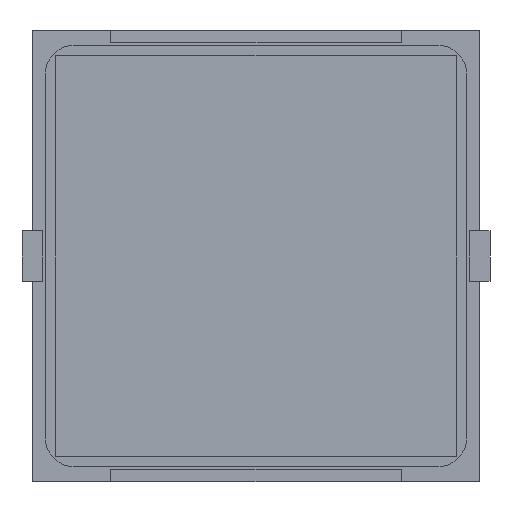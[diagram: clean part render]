
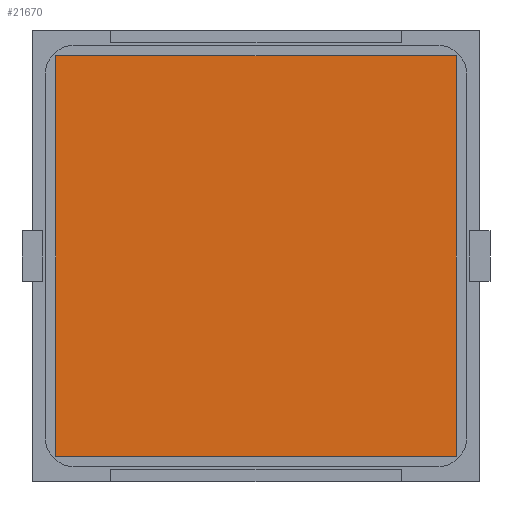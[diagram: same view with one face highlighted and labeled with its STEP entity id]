
A CAD part, front view. The second image highlights one B-rep face of the part: STEP entity #21670.
In plain terms, the highlighted planar face has unit normal (0, -1, 0).
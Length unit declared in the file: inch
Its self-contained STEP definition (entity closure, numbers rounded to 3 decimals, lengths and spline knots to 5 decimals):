
#496 = VERTEX_POINT ( 'NONE', #2770 ) ;
#2770 = CARTESIAN_POINT ( 'NONE',  ( -0.7874, -0.005, 0.7874 ) ) ;
#3016 = VECTOR ( 'NONE', #6943, 39.37008 ) ;
#3678 = DIRECTION ( 'NONE',  ( 0., 0., -1. ) ) ;
#4686 = CARTESIAN_POINT ( 'NONE',  ( -0.7874, -0.005, 0.7874 ) ) ;
#5505 = VERTEX_POINT ( 'NONE', #10913 ) ;
#6210 = LINE ( 'NONE', #12666, #12711 ) ;
#6943 = DIRECTION ( 'NONE',  ( -1., 0., 0. ) ) ;
#7143 = LINE ( 'NONE', #13608, #19874 ) ;
#7501 = VERTEX_POINT ( 'NONE', #18942 ) ;
#7991 = DIRECTION ( 'NONE',  ( 1., 0., 0. ) ) ;
#8550 = EDGE_LOOP ( 'NONE', ( #21667, #20720, #19231, #16180 ) ) ;
#8920 = VERTEX_POINT ( 'NONE', #11664 ) ;
#9814 = PLANE ( 'NONE',  #19160 ) ;
#9848 = EDGE_CURVE ( 'NONE', #8920, #496, #17848, .T. ) ;
#10913 = CARTESIAN_POINT ( 'NONE',  ( 0.7874, -0.005, 0.7874 ) ) ;
#11107 = EDGE_CURVE ( 'NONE', #496, #5505, #6210, .T. ) ;
#11664 = CARTESIAN_POINT ( 'NONE',  ( -0.7874, -0.005, -0.7874 ) ) ;
#12405 = DIRECTION ( 'NONE',  ( 0., 0., 1. ) ) ;
#12666 = CARTESIAN_POINT ( 'NONE',  ( -0.7874, -0.005, 0.7874 ) ) ;
#12711 = VECTOR ( 'NONE', #7991, 39.37008 ) ;
#13058 = CARTESIAN_POINT ( 'NONE',  ( -0.7874, -0.005, -0.7874 ) ) ;
#13608 = CARTESIAN_POINT ( 'NONE',  ( 0.7874, -0.005, -0.7874 ) ) ;
#15203 = DIRECTION ( 'NONE',  ( 0., 0., 1. ) ) ;
#15768 = VECTOR ( 'NONE', #12405, 39.37008 ) ;
#16180 = ORIENTED_EDGE ( 'NONE', *, *, #11107, .F. ) ;
#16761 = DIRECTION ( 'NONE',  ( 0., 1., 0. ) ) ;
#17575 = EDGE_CURVE ( 'NONE', #7501, #8920, #20884, .T. ) ;
#17848 = LINE ( 'NONE', #13058, #15768 ) ;
#18942 = CARTESIAN_POINT ( 'NONE',  ( 0.7874, -0.005, -0.7874 ) ) ;
#19160 = AXIS2_PLACEMENT_3D ( 'NONE', #4686, #16761, #15203 ) ;
#19231 = ORIENTED_EDGE ( 'NONE', *, *, #20974, .F. ) ;
#19874 = VECTOR ( 'NONE', #3678, 39.37008 ) ;
#20570 = CARTESIAN_POINT ( 'NONE',  ( -0.7874, -0.005, -0.7874 ) ) ;
#20720 = ORIENTED_EDGE ( 'NONE', *, *, #17575, .F. ) ;
#20884 = LINE ( 'NONE', #20570, #3016 ) ;
#20974 = EDGE_CURVE ( 'NONE', #5505, #7501, #7143, .T. ) ;
#21667 = ORIENTED_EDGE ( 'NONE', *, *, #9848, .F. ) ;
#21670 = ADVANCED_FACE ( 'NONE', ( #21870 ), #9814, .F. ) ;
#21870 = FACE_OUTER_BOUND ( 'NONE', #8550, .T. ) ;
